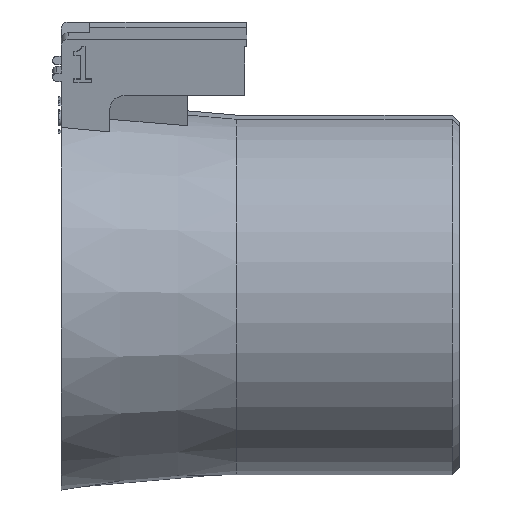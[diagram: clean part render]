
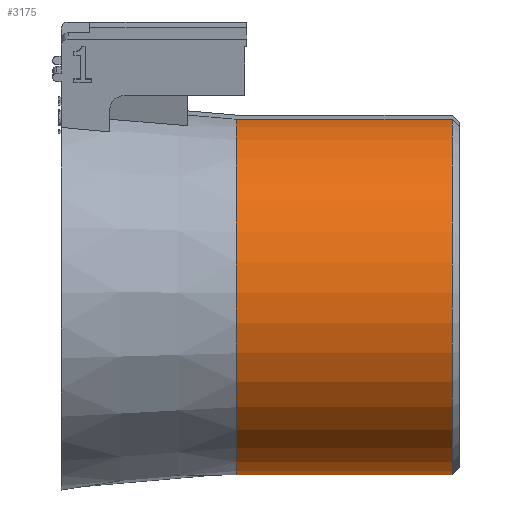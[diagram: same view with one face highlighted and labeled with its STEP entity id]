
A CAD part, front view. The second image highlights one B-rep face of the part: STEP entity #3175.
In plain terms, the highlighted cylindrical face has radius 12.5 mm (diameter 25 mm), a partial arc.
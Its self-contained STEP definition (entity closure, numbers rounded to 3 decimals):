
#58=CIRCLE('',#3348,12.5);
#67=CIRCLE('',#3368,12.5);
#104=CYLINDRICAL_SURFACE('',#3367,12.5);
#474=FACE_OUTER_BOUND('',#644,.T.);
#644=EDGE_LOOP('',(#2820,#2821,#2822,#2823));
#940=LINE('',#5265,#1258);
#968=LINE('',#5340,#1286);
#1258=VECTOR('',#3928,10.);
#1286=VECTOR('',#3976,10.);
#1619=VERTEX_POINT('',#5213);
#1622=VERTEX_POINT('',#5226);
#1636=VERTEX_POINT('',#5264);
#1661=VERTEX_POINT('',#5339);
#2017=EDGE_CURVE('',#1619,#1622,#58,.T.);
#2037=EDGE_CURVE('',#1636,#1622,#940,.T.);
#2072=EDGE_CURVE('',#1661,#1619,#968,.T.);
#2073=EDGE_CURVE('',#1636,#1661,#67,.T.);
#2820=ORIENTED_EDGE('',*,*,#2072,.F.);
#2821=ORIENTED_EDGE('',*,*,#2073,.F.);
#2822=ORIENTED_EDGE('',*,*,#2037,.T.);
#2823=ORIENTED_EDGE('',*,*,#2017,.F.);
#3175=ADVANCED_FACE('',(#474),#104,.T.);
#3348=AXIS2_PLACEMENT_3D('',#5227,#3894,#3895);
#3367=AXIS2_PLACEMENT_3D('',#5338,#3974,#3975);
#3368=AXIS2_PLACEMENT_3D('',#5341,#3977,#3978);
#3894=DIRECTION('center_axis',(-1.,0.,0.));
#3895=DIRECTION('ref_axis',(0.,-0.985,-0.174));
#3928=DIRECTION('',(-1.,0.,0.));
#3974=DIRECTION('center_axis',(-1.,0.,0.));
#3975=DIRECTION('ref_axis',(0.,-0.985,-0.174));
#3976=DIRECTION('',(-1.,0.,0.));
#3977=DIRECTION('center_axis',(1.,0.,0.));
#3978=DIRECTION('ref_axis',(0.,0.985,0.174));
#5213=CARTESIAN_POINT('',(11.43,0.489,-12.49));
#5226=CARTESIAN_POINT('',(11.43,-3.369,12.205));
#5227=CARTESIAN_POINT('Origin',(11.43,-1.198,-0.105));
#5264=CARTESIAN_POINT('',(26.5,-3.369,12.205));
#5265=CARTESIAN_POINT('',(19.215,-3.369,12.205));
#5338=CARTESIAN_POINT('Origin',(19.215,-1.198,-0.105));
#5339=CARTESIAN_POINT('',(26.5,0.489,-12.49));
#5340=CARTESIAN_POINT('',(19.215,0.489,-12.49));
#5341=CARTESIAN_POINT('Origin',(26.5,-1.198,-0.105));
